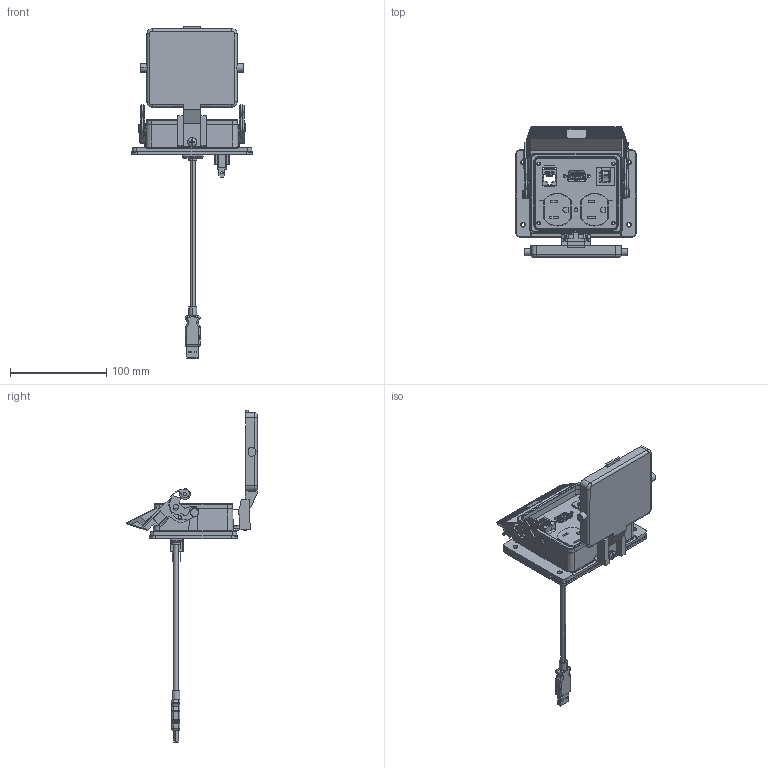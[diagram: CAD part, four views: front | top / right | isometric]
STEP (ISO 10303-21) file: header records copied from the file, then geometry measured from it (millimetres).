
FILE_DESCRIPTION (( 'STEP AP214' ), '1' );
FILE_NAME ('DP-RJ45-USB-ZZ-R-32.STEP', '2006-12-14T16:02:23', ( 'Mencom' ), ( 'Mencom Corporation' ), 'SwSTEP 2.0', 'SolidWorks 2006104', '' );
FILE_SCHEMA (( 'AUTOMOTIVE_DESIGN' ));
Length unit declared in the file: inch
Products named in the file (1): DP-RJ45-USB-ZZ-R-32
Bounding box: 125.98 x 135.79 x 345.44 mm (x, y, z)
Surface area: 113827 mm2 (no closed solid volume)
Topology: 0 solids, 55 shells, 1271 faces, 4624 edges, 3273 vertices
Faces by surface type: plane 826, cylinder 362, torus 40, sphere 18, cone 16, bspline 9
Entity records: 71431 total; most frequent: CARTESIAN_POINT 15988, DIRECTION 7891, ORIENTED_EDGE 7468, EDGE_CURVE 4608, VECTOR 3275, LINE 3275, VERTEX_POINT 3273, AXIS2_PLACEMENT_3D 2308
